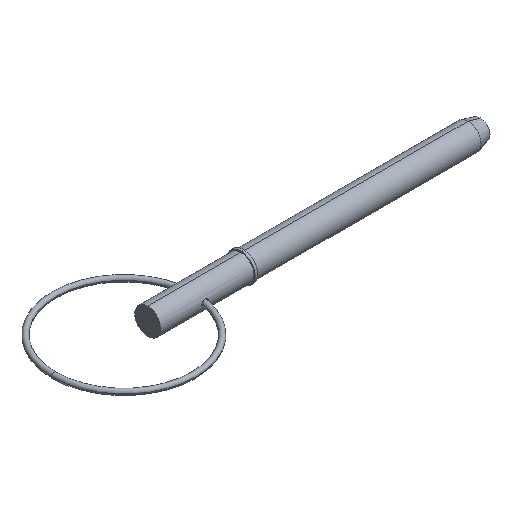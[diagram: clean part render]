
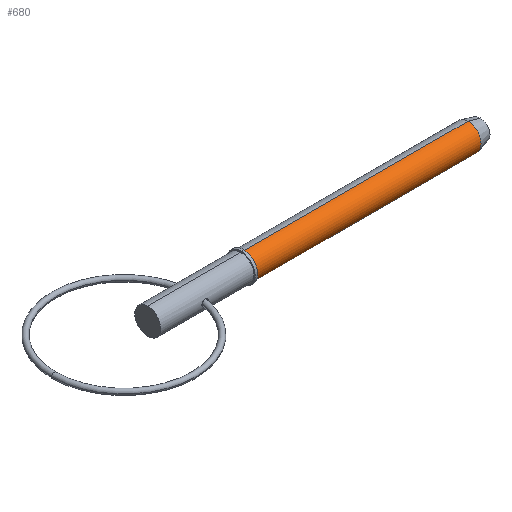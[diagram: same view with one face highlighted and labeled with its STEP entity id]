
A CAD part, isometric view. The second image highlights one B-rep face of the part: STEP entity #680.
In plain terms, the highlighted cylindrical face has radius 2.38 mm (diameter 4.76 mm), a partial arc.
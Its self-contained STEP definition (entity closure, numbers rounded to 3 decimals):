
#38 = LINE ( 'NONE', #171, #878 ) ;
#63 = EDGE_CURVE ( 'NONE', #925, #264, #751, .T. ) ;
#103 = ORIENTED_EDGE ( 'NONE', *, *, #63, .T. ) ;
#171 = CARTESIAN_POINT ( 'NONE',  ( 0., 0., 2.38 ) ) ;
#173 = CYLINDRICAL_SURFACE ( 'NONE', #327, 2.38 ) ;
#189 = ORIENTED_EDGE ( 'NONE', *, *, #232, .T. ) ;
#199 = ORIENTED_EDGE ( 'NONE', *, *, #221, .F. ) ;
#211 = EDGE_LOOP ( 'NONE', ( #370, #189, #103, #199 ) ) ;
#214 = AXIS2_PLACEMENT_3D ( 'NONE', #822, #461, #611 ) ;
#221 = EDGE_CURVE ( 'NONE', #707, #264, #918, .T. ) ;
#232 = EDGE_CURVE ( 'NONE', #717, #925, #666, .T. ) ;
#234 = DIRECTION ( 'NONE',  ( 0., 0., -1. ) ) ;
#236 = DIRECTION ( 'NONE',  ( 1., 0., 0. ) ) ;
#243 = CARTESIAN_POINT ( 'NONE',  ( 17.45, 0., 2.38 ) ) ;
#264 = VERTEX_POINT ( 'NONE', #556 ) ;
#265 = EDGE_CURVE ( 'NONE', #717, #707, #38, .T. ) ;
#327 = AXIS2_PLACEMENT_3D ( 'NONE', #616, #391, #234 ) ;
#370 = ORIENTED_EDGE ( 'NONE', *, *, #265, .F. ) ;
#391 = DIRECTION ( 'NONE',  ( 1., 0., 0. ) ) ;
#411 = DIRECTION ( 'NONE',  ( 0., 0., -1. ) ) ;
#453 = AXIS2_PLACEMENT_3D ( 'NONE', #895, #236, #411 ) ;
#461 = DIRECTION ( 'NONE',  ( 1., 0., 0. ) ) ;
#466 = VECTOR ( 'NONE', #596, 1000. ) ;
#522 = CARTESIAN_POINT ( 'NONE',  ( 0., 0., -2.38 ) ) ;
#556 = CARTESIAN_POINT ( 'NONE',  ( 58.409, 0., -2.38 ) ) ;
#596 = DIRECTION ( 'NONE',  ( 1., 0., 0. ) ) ;
#611 = DIRECTION ( 'NONE',  ( 0., 0., -1. ) ) ;
#616 = CARTESIAN_POINT ( 'NONE',  ( 0., 0., 0. ) ) ;
#666 = CIRCLE ( 'NONE', #453, 2.38 ) ;
#680 = ADVANCED_FACE ( 'NONE', ( #894 ), #173, .T. ) ;
#701 = DIRECTION ( 'NONE',  ( 1., 0., 0. ) ) ;
#703 = CARTESIAN_POINT ( 'NONE',  ( 17.45, 0., -2.38 ) ) ;
#707 = VERTEX_POINT ( 'NONE', #743 ) ;
#717 = VERTEX_POINT ( 'NONE', #243 ) ;
#743 = CARTESIAN_POINT ( 'NONE',  ( 58.409, 0., 2.38 ) ) ;
#751 = LINE ( 'NONE', #522, #466 ) ;
#822 = CARTESIAN_POINT ( 'NONE',  ( 58.409, 0., 0. ) ) ;
#878 = VECTOR ( 'NONE', #701, 1000. ) ;
#894 = FACE_OUTER_BOUND ( 'NONE', #211, .T. ) ;
#895 = CARTESIAN_POINT ( 'NONE',  ( 17.45, 0., 0. ) ) ;
#918 = CIRCLE ( 'NONE', #214, 2.38 ) ;
#925 = VERTEX_POINT ( 'NONE', #703 ) ;
